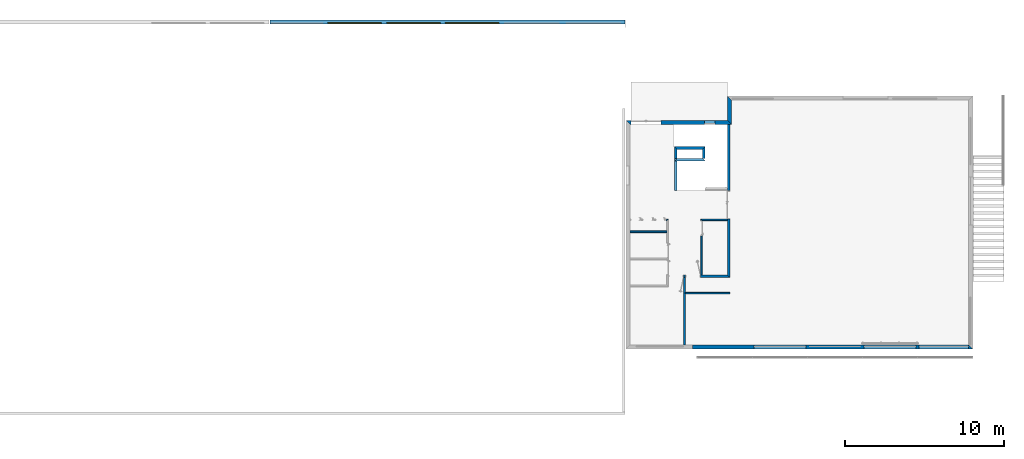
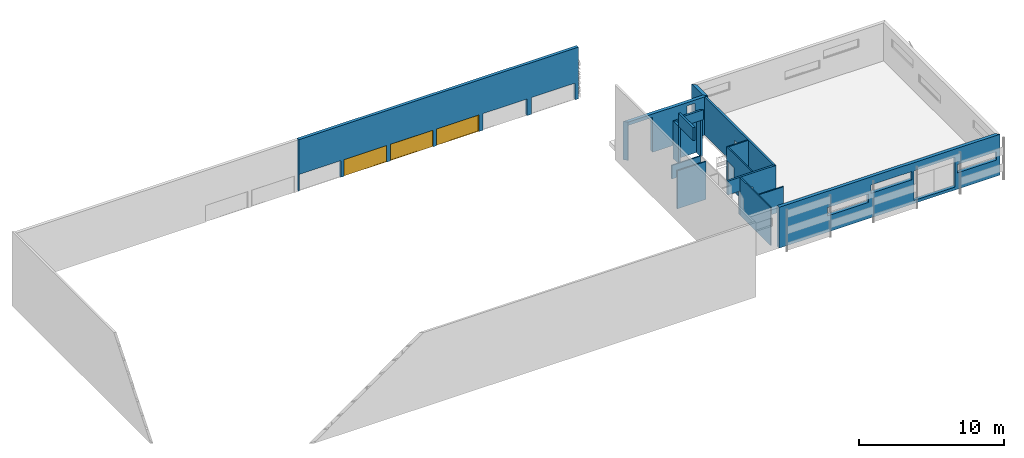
# One storey, part 5 of 14: 17 walls, 3 windows, 19 openings.
"""IFC2X3 building model written with IfcOpenShell, lengths in metres."""

from ifc_helpers import new_model, entity, si_unit, converted_unit, money_unit, direction, frame, origin_with_axes, place, context, subcontext, project, spatial, polyline, outline, extrude, open_shell, faceted_brep, surface_model, source, transform, mapped, material, layer, layer_set, layer_usage, type_object, element, fill, save


model = new_model("IFC2X3")

# Units and contexts
model_context = context("Model", 3, precision=1e-05, world=origin_with_axes(), true_north=direction((0.0, 1.0)))
body_context = subcontext(model_context, "Body", "Model", "MODEL_VIEW")
ifc_project = project(units=[si_unit("LENGTHUNIT", "METRE"), si_unit("AREAUNIT", "SQUARE_METRE"), si_unit("VOLUMEUNIT", "CUBIC_METRE"), converted_unit("PLANEANGLEUNIT", "DEGREE", entity("IfcPlaneAngleMeasure", 0.0174532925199), si_unit("PLANEANGLEUNIT", "RADIAN"), dimensions=[0, 0, 0, 0, 0, 0, 0]), si_unit("SOLIDANGLEUNIT", "STERADIAN"), money_unit("EUR"), converted_unit("TIMEUNIT", "Year", entity("IfcTimeMeasure", 31556926.0), si_unit("TIMEUNIT", "SECOND"), dimensions=[0, 0, 0, 0, 0, 0, 0]), si_unit("MASSUNIT", "GRAM"), si_unit("THERMODYNAMICTEMPERATUREUNIT", "DEGREE_CELSIUS"), si_unit("LUMINOUSINTENSITYUNIT", "LUMEN")], contexts=[model_context])

# Site, building, storey
site_placement = place(None, origin_with_axes())
site = spatial("IfcSite", under=ifc_project, at=site_placement, Name="Site", CompositionType="ELEMENT")
building_placement = place(site_placement, origin_with_axes())
building = spatial("IfcBuilding", under=site, at=building_placement, Name="Bâtiment", CompositionType="ELEMENT")
storey_placement = place(building_placement, frame((0.0, 0.0, 3.0), z_axis=(0.0, 0.0, 1.0), x_axis=(1.0, 0.0, 0.0)))
storey = spatial("IfcBuildingStorey", under=building, at=storey_placement, Name="NIVEAU HAUT ENTRÉE", CompositionType="ELEMENT", Elevation=3.0)

# Walls
ifc_material_1 = material(Name="Hachure solide* 3962059836")
ifc_layer_1 = layer(ifc_material_1, 0.1, ventilated="UNKNOWN")
ifc_layer_set_1 = layer_set([ifc_layer_1], Name="Hachure solide* 3962059836 0.1")
ifc_layer_usage_1 = layer_usage(ifc_layer_set_1, "AXIS2", "POSITIVE", -0.1)
wall_type_1 = type_object("IfcWallType", Name="Hachure solide* 3962059836 100", PredefinedType="NOTDEFINED")
wall_1_placement = place(storey_placement, frame((49.1962015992, 9.41881571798, 0.0), z_axis=(0.0, 0.0, 1.0), x_axis=(1.0, 0.0, 0.0)))
element("IfcWallStandardCase", 1, at=wall_1_placement, inside=storey, type_object=wall_type_1, material=ifc_layer_usage_1, Name="Mur-002", context=body_context, shape_type="SweptSolid", body=[
    extrude(outline(polyline([(0.0, -0.1), (2.8022563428, -0.1), (2.8022563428, 0.0), (0.0, 0.0), (0.0, -0.1)])), origin_with_axes(), (0.0, 0.0, 1.0), 2.03),
])
ifc_layer_usage_2 = layer_usage(ifc_layer_set_1, "AXIS2", "POSITIVE", 0.0)
wall_2_placement = place(storey_placement, frame((48.1362015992, 13.278815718, 0.0), z_axis=(0.0, 0.0, 1.0), x_axis=(-1.0, 0.0, 0.0)))
element("IfcWallStandardCase", 2, at=wall_2_placement, inside=storey, type_object=wall_type_1, material=ifc_layer_usage_2, Name="Mur-007", context=body_context, shape_type="SweptSolid", body=[
    extrude(outline(polyline([(0.1, 0.0), (2.3977436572, 0.0), (2.3977436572, 0.1), (0.1, 0.1), (0.1, 0.0)])), origin_with_axes(), (0.0, 0.0, 1.0), 3.2),
])

# Wall, openings
ifc_layer_usage_3 = layer_usage(ifc_layer_set_1, "AXIS2", "POSITIVE", 0.0)
wall_3_placement = place(storey_placement, frame((48.1362015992, 14.028815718, 0.0), z_axis=(0.0, 0.0, 1.0), x_axis=(-1.0, 0.0, 0.0)))
wall_3 = element("IfcWallStandardCase", 3, at=wall_3_placement, inside=storey, type_object=wall_type_1, material=ifc_layer_usage_3, Name="Mur-007", context=body_context, shape_type="SweptSolid", body=[
    extrude(outline(polyline([(0.0, 0.0), (2.3977436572, 0.0), (2.3977436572, 0.1), (0.1, 0.1), (0.0, 0.0)])), origin_with_axes(), (0.0, 0.0, 1.0), 3.2),
])
opening_1_placement = place(wall_3_placement, frame((2.02274366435, 0.0, 0.0), z_axis=(0.0, 0.0, 1.0), x_axis=(1.0, 0.0, 0.0)))
element("IfcOpeningElement", 4, at=opening_1_placement, cuts=wall_3, Name="Por-019", context=body_context, shape_type="SweptSolid", body=[
    extrude(outline(polyline([(0.375, 0.0), (-0.375, 0.0), (-0.375, -2.06), (0.375, -2.06), (0.375, 0.0)])), frame((0.0, 0.1, 0.0), z_axis=(0.0, -1.0, 0.0), x_axis=(-1.0, 0.0, 0.0)), (0.0, 0.0, 1.0), 0.2),
])
opening_2_placement = place(wall_3_placement, frame((1.24774365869, 0.0, 0.0), z_axis=(0.0, 0.0, 1.0), x_axis=(1.0, 0.0, 0.0)))
element("IfcOpeningElement", 5, at=opening_2_placement, cuts=wall_3, Name="Por-017", context=body_context, shape_type="SweptSolid", body=[
    extrude(outline(polyline([(0.4, 0.0), (-0.4, 0.0), (-0.4, -2.06), (0.4, -2.06), (0.4, 0.0)])), frame((0.0, 0.1, 0.0), z_axis=(0.0, -1.0, 0.0), x_axis=(-1.0, 0.0, 0.0)), (0.0, 0.0, 1.0), 0.2),
])
opening_3_placement = place(wall_3_placement, frame((0.487743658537, 0.0, 0.0), z_axis=(0.0, 0.0, 1.0), x_axis=(1.0, 0.0, 0.0)))
element("IfcOpeningElement", 6, at=opening_3_placement, cuts=wall_3, Name="Por-018", context=body_context, shape_type="SweptSolid", body=[
    extrude(outline(polyline([(0.36, 0.0), (-0.36, 0.0), (-0.36, -2.06), (0.36, -2.06), (0.36, 0.0)])), frame((0.0, 0.1, 0.0), z_axis=(0.0, -1.0, 0.0), x_axis=(-1.0, 0.0, 0.0)), (0.0, 0.0, 1.0), 0.2),
])

# Wall, opening
ifc_layer_usage_4 = layer_usage(ifc_layer_set_1, "AXIS2", "POSITIVE", -0.1)
wall_4_placement = place(storey_placement, frame((50.2562015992, 14.028815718, 0.0), z_axis=(0.0, 0.0, 1.0), x_axis=(0.0, -1.0, 0.0)))
wall_4 = element("IfcWallStandardCase", 7, at=wall_4_placement, inside=storey, type_object=wall_type_1, material=ifc_layer_usage_4, Name="Mur-005", context=body_context, shape_type="SweptSolid", body=[
    extrude(outline(polyline([(0.0, -0.1), (3.51, -0.1), (3.51, 0.0), (0.1, 0.0), (0.0, -0.1)])), origin_with_axes(), (0.0, 0.0, 1.0), 3.2),
])
opening_4_placement = place(wall_4_placement, frame((0.58, 0.0, -0.02), z_axis=(0.0, 0.0, 1.0), x_axis=(1.0, 0.0, 0.0)))
element("IfcOpeningElement", 8, at=opening_4_placement, cuts=wall_4, Name="Por-019", context=body_context, shape_type="SweptSolid", body=[
    extrude(outline(polyline([(0.48, 0.0), (-0.48, 0.0), (-0.48, -2.05), (0.48, -2.05), (0.48, 0.0)])), frame((0.0, -0.1, 0.0), z_axis=(0.0, 1.0, 0.0), x_axis=(1.0, 0.0, 0.0)), (0.0, 0.0, 1.0), 0.2),
])

# Walls
ifc_layer_usage_5 = layer_usage(ifc_layer_set_1, "AXIS2", "POSITIVE", -0.1)
wall_5_placement = place(storey_placement, frame((50.2562015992, 14.028815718, 0.0), z_axis=(0.0, 0.0, 1.0), x_axis=(1.0, 0.0, 0.0)))
element("IfcWallStandardCase", 9, at=wall_5_placement, inside=storey, type_object=wall_type_1, material=ifc_layer_usage_5, Name="Mur-007", context=body_context, shape_type="SweptSolid", body=[
    extrude(outline(polyline([(0.0, -0.1), (1.5822563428, -0.1), (1.5822563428, 0.0), (-0.1, 0.0), (0.0, -0.1)])), origin_with_axes(), (0.0, 0.0, 1.0), 3.2),
])
ifc_layer_usage_6 = layer_usage(ifc_layer_set_1, "AXIS2", "POSITIVE", 0.0)
wall_6_placement = place(storey_placement, frame((49.1962015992, 5.86881571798, 0.0), z_axis=(0.0, 0.0, 1.0), x_axis=(0.0, 1.0, 0.0)))
element("IfcWallStandardCase", 10, at=wall_6_placement, inside=storey, type_object=wall_type_1, material=ifc_layer_usage_6, Name="Mur-001", context=body_context, shape_type="SweptSolid", body=[
    extrude(outline(polyline([(0.26, 0.0), (4.49000000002, 0.0), (4.49000000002, 0.1), (0.26, 0.1), (0.26, 0.0)])), origin_with_axes(), (0.0, 0.0, 1.0), 3.2),
])
ifc_material_2 = material(Name="Hachure solide* 3992800808")
ifc_layer_2 = layer(ifc_material_2, 0.02, ventilated="UNKNOWN")
ifc_material_3 = material(Name="Empty Fill 290923149")
ifc_layer_3 = layer(ifc_material_3, 0.08, ventilated="UNKNOWN")
ifc_material_4 = material(Name="Hachure solide* 2593434267")
ifc_layer_4 = layer(ifc_material_4, 0.16, ventilated="UNKNOWN")
ifc_layer_set_2 = layer_set([ifc_layer_2, ifc_layer_3, ifc_layer_4], Name="•GYMN 16+10")
ifc_layer_usage_7 = layer_usage(ifc_layer_set_2, "AXIS2", "POSITIVE", -0.26)
wall_type_2 = type_object("IfcWallType", Name="•GYMN 16+10 260", PredefinedType="NOTDEFINED")
wall_7_placement = place(storey_placement, frame((51.838457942, 20.228815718, -0.15), z_axis=(0.0, 0.0, 1.0), x_axis=(0.0, 1.0, 0.0)))
element("IfcWallStandardCase", 11, at=wall_7_placement, inside=storey, type_object=wall_type_2, material=ifc_layer_usage_7, Name="Mur-003", context=body_context, shape_type="SweptSolid", body=[
    extrude(outline(polyline([(-0.26, -0.26), (1.27, -0.26), (1.53, 0.0), (0.0, 0.0), (-0.26, -0.26)])), origin_with_axes(), (0.0, 0.0, 1.0), 3.35),
])

# Wall, openings
ifc_layer_usage_8 = layer_usage(ifc_layer_set_2, "AXIS2", "POSITIVE", -0.26)
wall_8_placement = place(storey_placement, frame((45.478457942, 20.228815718, -0.03), z_axis=(0.0, 0.0, 1.0), x_axis=(1.0, 0.0, 0.0)))
wall_8 = element("IfcWallStandardCase", 12, at=wall_8_placement, inside=storey, type_object=wall_type_2, material=ifc_layer_usage_8, Name="Mur-002", context=body_context, shape_type="SweptSolid", body=[
    extrude(outline(polyline([(0.26, -0.26), (6.62, -0.26), (6.36, 0.0), (0.0, 0.0), (0.26, -0.26)])), origin_with_axes(), (0.0, 0.0, 1.0), 3.23),
])
opening_5_placement = place(wall_8_placement, frame((5.265, 0.0, 0.665078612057), z_axis=(0.0, 0.0, 1.0), x_axis=(1.0, 0.0, 0.0)))
element("IfcOpeningElement", 13, at=opening_5_placement, cuts=wall_8, Name="Fen-001", context=body_context, shape_type="SweptSolid", body=[
    extrude(outline(polyline([(0.325, -2.288652), (0.325, 0.0), (-0.325, 0.0), (-0.325, -2.288652), (0.325, -2.288652)])), frame((0.0, -0.26, 0.0), z_axis=(0.0, -1.0, 0.0), x_axis=(-1.0, 0.0, 0.0)), (0.0, 0.0, 1.0), 0.26),
    extrude(outline(polyline([(0.325, 0.0), (0.325, 2.288652), (-0.325, 2.288652), (-0.325, 0.0), (0.325, 0.0)])), frame((0.0, -0.26, 0.0), z_axis=(0.0, 1.0, 0.0), x_axis=(-1.0, 0.0, 0.0)), (0.0, 0.0, 1.0), 0.26),
])
opening_6_placement = place(wall_8_placement, frame((1.25, 0.0, 0.0), z_axis=(0.0, 0.0, 1.0), x_axis=(1.0, 0.0, 0.0)))
element("IfcOpeningElement", 14, at=opening_6_placement, cuts=wall_8, Name="Por-014", context=body_context, shape_type="SweptSolid", body=[
    extrude(outline(polyline([(-0.95, 0.0), (-0.95, -2.95373200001), (0.95, -2.95373200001), (0.95, 0.0), (-0.95, 0.0)])), frame((0.0, 0.0, 0.0), z_axis=(0.0, 1.0, 0.0), x_axis=(1.0, 0.0, 0.0)), (0.0, 0.0, 1.0), 0.26),
    extrude(outline(polyline([(-0.95, 2.95373200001), (-0.95, 0.0), (0.95, 0.0), (0.95, 2.95373200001), (-0.95, 2.95373200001)])), frame((0.0, 0.0, 0.0), z_axis=(0.0, -1.0, 0.0), x_axis=(1.0, 0.0, 0.0)), (0.0, 0.0, 1.0), 0.26),
])

ifc_layer_usage_9 = layer_usage(ifc_layer_set_2, "AXIS2", "POSITIVE", -0.26)
wall_9_placement = place(storey_placement, frame((67.258457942, 5.86881571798, -0.25), z_axis=(0.0, 0.0, 1.0), x_axis=(-1.0, 0.0, 0.0)))
wall_9 = element("IfcWallStandardCase", 15, at=wall_9_placement, inside=storey, type_object=wall_type_2, material=ifc_layer_usage_9, Name="Mur-004", context=body_context, shape_type="SweptSolid", body=[
    extrude(outline(polyline([(0.26, -0.26), (17.62, -0.26), (17.62, 0.0), (0.0, 0.0), (0.26, -0.26)])), origin_with_axes(), (0.0, 0.0, 1.0), 3.45),
])
opening_7_placement = place(wall_9_placement, frame((8.6645, 0.0, 2.0608240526), z_axis=(0.0, 0.0, 1.0), x_axis=(1.0, 0.0, 0.0)))
element("IfcOpeningElement", 16, at=opening_7_placement, cuts=wall_9, Name="Fen-026", context=body_context, shape_type="SweptSolid", body=[
    extrude(outline(polyline([(1.6345, 0.7), (-1.6345, 0.7), (-1.6345, 0.0), (1.6345, 0.0), (1.6345, 0.7)])), frame((0.0, -0.18, 0.0), z_axis=(0.0, 1.0, 0.0), x_axis=(-1.0, 0.0, 0.0)), (0.0, 0.0, 1.0), 0.44),
    extrude(outline(polyline([(1.6345, 0.0), (-1.6345, 0.0), (-1.6345, -0.7), (1.6345, -0.7), (1.6345, 0.0)])), frame((0.0, -0.18, 0.0), z_axis=(0.0, -1.0, 0.0), x_axis=(-1.0, 0.0, 0.0)), (0.0, 0.0, 1.0), 0.34),
])
opening_8_placement = place(wall_9_placement, frame((12.1210306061, 0.0, 1.37), z_axis=(0.0, 0.0, 1.0), x_axis=(1.0, 0.0, 0.0)))
element("IfcOpeningElement", 17, at=opening_8_placement, cuts=wall_9, Name="Fen-026", context=body_context, shape_type="SweptSolid", body=[
    extrude(outline(polyline([(1.635969, 0.7), (-1.635969, 0.7), (-1.635969, 0.0), (1.635969, 0.0), (1.635969, 0.7)])), frame((0.0, -0.18, 0.0), z_axis=(0.0, 1.0, 0.0), x_axis=(-1.0, 0.0, 0.0)), (0.0, 0.0, 1.0), 0.44),
    extrude(outline(polyline([(1.635969, 0.0), (-1.635969, 0.0), (-1.635969, -0.7), (1.635969, -0.7), (1.635969, 0.0)])), frame((0.0, -0.18, 0.0), z_axis=(0.0, -1.0, 0.0), x_axis=(-1.0, 0.0, 0.0)), (0.0, 0.0, 1.0), 0.34),
])
opening_9_placement = place(wall_9_placement, frame((1.8165, 0.0, 1.37), z_axis=(0.0, 0.0, 1.0), x_axis=(1.0, 0.0, 0.0)))
element("IfcOpeningElement", 18, at=opening_9_placement, cuts=wall_9, Name="Fen-026", context=body_context, shape_type="SweptSolid", body=[
    extrude(outline(polyline([(-1.5565, 0.7), (-1.5565, 0.0), (1.5565, 0.0), (1.5565, 0.7), (-1.5565, 0.7)])), frame((0.0, -0.18, 0.0), z_axis=(0.0, 1.0, 0.0), x_axis=(-1.0, 0.0, 0.0)), (0.0, 0.0, 1.0), 0.44),
    extrude(outline(polyline([(-1.5565, 0.0), (-1.5565, -0.7), (1.5565, -0.7), (1.5565, 0.0), (-1.5565, 0.0)])), frame((0.0, -0.18, 0.0), z_axis=(0.0, -1.0, 0.0), x_axis=(-1.0, 0.0, 0.0)), (0.0, 0.0, 1.0), 0.34),
])
opening_10_placement = place(wall_9_placement, frame((5.20601755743, 0.0, 0.25), z_axis=(0.0, 0.0, 1.0), x_axis=(1.0, 0.0, 0.0)))
element("IfcOpeningElement", 19, at=opening_10_placement, cuts=wall_9, Name="Fen-026", context=body_context, shape_type="SweptSolid", body=[
    extrude(outline(polyline([(1.64, 2.510824), (-1.64, 2.510824), (-1.64, 0.0), (1.64, 0.0), (1.64, 2.510824)])), frame((0.0, -0.18, 0.0), z_axis=(0.0, 1.0, 0.0), x_axis=(-1.0, 0.0, 0.0)), (0.0, 0.0, 1.0), 0.44),
    extrude(outline(polyline([(1.64, 0.0), (-1.64, 0.0), (-1.64, -2.510824), (1.64, -2.510824), (1.64, 0.0)])), frame((0.0, -0.18, 0.0), z_axis=(0.0, -1.0, 0.0), x_axis=(-1.0, 0.0, 0.0)), (0.0, 0.0, 1.0), 0.34),
])

# Walls
ifc_layer_5 = layer(ifc_material_1, 0.16, ventilated="UNKNOWN")
ifc_layer_set_3 = layer_set([ifc_layer_5], Name="Hachure solide* 3962059836 0.16")
ifc_layer_usage_10 = layer_usage(ifc_layer_set_3, "AXIS2", "POSITIVE", -0.16)
wall_type_3 = type_object("IfcWallType", Name="Hachure solide* 3962059836 160", PredefinedType="NOTDEFINED")
wall_10_placement = place(storey_placement, frame((48.518457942, 15.808815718, 3.18), z_axis=(0.0, 0.0, 1.0), x_axis=(0.0, 1.0, 0.0)))
element("IfcWallStandardCase", 20, at=wall_10_placement, inside=storey, type_object=wall_type_3, material=ifc_layer_usage_10, Name="Mur-008", context=body_context, shape_type="SweptSolid", body=[
    extrude(outline(polyline([(0.0, -0.16), (2.02, -0.16), (2.02, 0.0), (0.0, 0.0), (0.0, -0.16)])), origin_with_axes(), (0.0, 0.0, 1.0), 1.1),
])
ifc_layer_usage_11 = layer_usage(ifc_layer_set_3, "AXIS2", "POSITIVE", -0.16)
wall_11_placement = place(storey_placement, frame((48.518457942, 17.828815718, 3.18), z_axis=(0.0, 0.0, 1.0), x_axis=(1.0, 0.0, 0.0)))
element("IfcWallStandardCase", 21, at=wall_11_placement, inside=storey, type_object=wall_type_3, material=ifc_layer_usage_11, Name="Mur-005", context=body_context, shape_type="SweptSolid", body=[
    extrude(outline(polyline([(0.0, -0.16), (1.92, -0.16), (1.76, 0.0), (0.16, 0.0), (0.0, -0.16)])), origin_with_axes(), (0.0, 0.0, 1.0), 0.82),
])
ifc_layer_usage_12 = layer_usage(ifc_layer_set_3, "AXIS2", "POSITIVE", -0.16)
wall_12_placement = place(storey_placement, frame((48.518457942, 18.568815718, 0.0), z_axis=(0.0, 0.0, 1.0), x_axis=(1.0, 0.0, 0.0)))
element("IfcWallStandardCase", 22, at=wall_12_placement, inside=storey, type_object=wall_type_3, material=ifc_layer_usage_12, Name="Mur-005", context=body_context, shape_type="SweptSolid", body=[
    extrude(outline(polyline([(0.16, -0.16), (1.76, -0.16), (1.92, 0.0), (0.0, 0.0), (0.16, -0.16)])), origin_with_axes(), (0.0, 0.0, 1.0), 3.2),
])
ifc_layer_usage_13 = layer_usage(ifc_layer_set_3, "AXIS2", "POSITIVE", -0.16)
wall_13_placement = place(storey_placement, frame((48.518457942, 17.828815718, 0.0), z_axis=(0.0, 0.0, 1.0), x_axis=(0.0, 1.0, 0.0)))
element("IfcWallStandardCase", 23, at=wall_13_placement, inside=storey, type_object=wall_type_3, material=ifc_layer_usage_13, Name="Mur-004", context=body_context, shape_type="SweptSolid", body=[
    extrude(outline(polyline([(0.0, -0.16), (0.58, -0.16), (0.74, 0.0), (0.0, 0.0), (0.0, -0.16)])), origin_with_axes(), (0.0, 0.0, 1.0), 3.2),
])

# Wall, openings
ifc_layer_usage_14 = layer_usage(ifc_layer_set_3, "AXIS2", "POSITIVE", -0.16)
wall_14_placement = place(storey_placement, frame((48.1362015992, 10.518815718, 0.0), z_axis=(0.0, 0.0, 1.0), x_axis=(1.0, 0.0, 0.0)))
wall_14 = element("IfcWallStandardCase", 24, at=wall_14_placement, inside=storey, type_object=wall_type_3, material=ifc_layer_usage_14, Name="Mur-002", context=body_context, shape_type="SweptSolid", body=[
    extrude(outline(polyline([(0.0, -0.16), (3.8622563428, -0.16), (3.7022563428, 0.0), (0.0, 0.0), (0.0, -0.16)])), origin_with_axes(), (0.0, 0.0, 1.0), 3.2),
])
opening_11_placement = place(wall_14_placement, frame((0.48, 0.0, -0.02), z_axis=(0.0, 0.0, 1.0), x_axis=(1.0, 0.0, 0.0)))
element("IfcOpeningElement", 25, at=opening_11_placement, cuts=wall_14, Name="Por-018", context=body_context, shape_type="SweptSolid", body=[
    extrude(outline(polyline([(0.48, 0.0), (-0.48, 0.0), (-0.48, -2.05), (0.48, -2.05), (0.48, 0.0)])), frame((0.0, 0.16, 0.0), z_axis=(0.0, -1.0, 0.0), x_axis=(-1.0, 0.0, 0.0)), (0.0, 0.0, 1.0), 0.32),
])
opening_12_placement = place(wall_14_placement, frame((1.54, 0.0, -0.02), z_axis=(0.0, 0.0, 1.0), x_axis=(1.0, 0.0, 0.0)))
element("IfcOpeningElement", 26, at=opening_12_placement, cuts=wall_14, Name="Por-019", context=body_context, shape_type="SweptSolid", body=[
    extrude(outline(polyline([(-0.48, 0.0), (-0.48, -2.05), (0.48, -2.05), (0.48, 0.0), (-0.48, 0.0)])), frame((0.0, -0.16, 0.0), z_axis=(0.0, 1.0, 0.0), x_axis=(1.0, 0.0, 0.0)), (0.0, 0.0, 1.0), 0.32),
])

# Wall, opening
ifc_layer_usage_15 = layer_usage(ifc_layer_set_3, "AXIS2", "POSITIVE", 0.0)
wall_15_placement = place(storey_placement, frame((51.838457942, 20.228815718, 0.0), z_axis=(0.0, 0.0, 1.0), x_axis=(0.0, -1.0, 0.0)))
wall_15 = element("IfcWallStandardCase", 27, at=wall_15_placement, inside=storey, type_object=wall_type_3, material=ifc_layer_usage_15, Name="Mur-004", context=body_context, shape_type="SweptSolid", body=[
    extrude(outline(polyline([(0.26, 0.0), (9.71, 0.0), (9.87, 0.16), (0.26, 0.16), (0.26, 0.0)])), origin_with_axes(), (0.0, 0.0, 1.0), 3.2),
])
opening_13_placement = place(wall_15_placement, frame((5.31000000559, 0.0, 0.0), z_axis=(0.0, 0.0, 1.0), x_axis=(1.0, 0.0, 0.0)))
element("IfcOpeningElement", 28, at=opening_13_placement, cuts=wall_15, Name="Por-017", context=body_context, shape_type="SweptSolid", body=[
    extrude(outline(polyline([(0.89, 0.0), (-0.89, 0.0), (-0.89, -2.045), (0.89, -2.045), (0.89, 0.0)])), frame((0.0, 0.16, 0.0), z_axis=(0.0, -1.0, 0.0), x_axis=(-1.0, 0.0, 0.0)), (0.0, 0.0, 1.0), 0.32),
])

# Wall
ifc_layer_usage_16 = layer_usage(ifc_layer_set_3, "AXIS2", "POSITIVE", -0.16)
wall_16_placement = place(storey_placement, frame((50.438457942, 18.568815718, 0.0), z_axis=(0.0, 0.0, 1.0), x_axis=(0.0, -1.0, 0.0)))
element("IfcWallStandardCase", 29, at=wall_16_placement, inside=storey, type_object=wall_type_3, material=ifc_layer_usage_16, Name="Mur-006", context=body_context, shape_type="SweptSolid", body=[
    extrude(outline(polyline([(0.16, -0.16), (0.74, -0.16), (0.74, 0.0), (0.0, 0.0), (0.16, -0.16)])), origin_with_axes(), (0.0, 0.0, 1.0), 3.2),
])

# Wall, openings, windows
ifc_material_5 = material(Name="Hachure solide* 1842511997")
ifc_layer_6 = layer(ifc_material_5, 0.1, ventilated="UNKNOWN")
ifc_material_6 = material(Name="Isolation 347608549")
ifc_layer_7 = layer(ifc_material_6, 0.12, ventilated="UNKNOWN")
ifc_material_7 = material(Name="Hachure solide* 398427698")
ifc_layer_8 = layer(ifc_material_7, 0.02, ventilated="UNKNOWN")
ifc_layer_set_4 = layer_set([ifc_layer_6, ifc_layer_7, ifc_layer_8], Name="•GYMN PANNEAU 1 0232896968")
ifc_layer_usage_17 = layer_usage(ifc_layer_set_4, "AXIS2", "POSITIVE", -0.24)
wall_type_4 = type_object("IfcWallType", Name="•GYMN PANNEAU 1 0232896968 240", PredefinedType="NOTDEFINED")
wall_17_placement = place(storey_placement, frame((23.108457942, 26.5291158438, 1.46), z_axis=(0.0, 0.0, 1.0), x_axis=(1.0, 0.0, 0.0)))
wall_17 = element("IfcWallStandardCase", 30, at=wall_17_placement, inside=storey, type_object=wall_type_4, material=ifc_layer_usage_17, Name="Mur-003", context=body_context, shape_type="SweptSolid", body=[
    extrude(outline(polyline([(0.0, -0.24), (22.31, -0.24), (22.31, 0.0), (0.0, 0.0), (0.0, -0.24)])), origin_with_axes(), (0.0, 0.0, 1.0), 4.35),
])
opening_14_placement = place(wall_17_placement, frame((16.4434939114, 0.0, 0.0), z_axis=(0.0, 0.0, 1.0), x_axis=(1.0, 0.0, 0.0)))
element("IfcOpeningElement", 31, at=opening_14_placement, cuts=wall_17, Name="Fen-028", context=body_context, shape_type="SweptSolid", body=[
    extrude(outline(polyline([(1.75, 0.0), (-1.75, 0.0), (-1.75, -1.405702), (1.75, -1.405702), (1.75, 0.0)])), frame((0.0, -0.16, 0.0), z_axis=(0.0, 1.0, 0.0), x_axis=(1.0, 0.0, 0.0)), (0.0, 0.0, 1.0), 0.4),
    extrude(outline(polyline([(1.75, 1.405702), (-1.75, 1.405702), (-1.75, 0.0), (1.75, 0.0), (1.75, 1.405702)])), frame((0.0, -0.16, 0.0), z_axis=(0.0, -1.0, 0.0), x_axis=(1.0, 0.0, 0.0)), (0.0, 0.0, 1.0), 0.32),
])
opening_15_placement = place(wall_17_placement, frame((12.6934939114, 0.0, 0.0), z_axis=(0.0, 0.0, 1.0), x_axis=(1.0, 0.0, 0.0)))
opening_15 = element("IfcOpeningElement", 32, at=opening_15_placement, cuts=wall_17, Name="Fen-028", context=body_context, shape_type="SweptSolid", body=[
    extrude(outline(polyline([(1.7, 0.0), (-1.7, 0.0), (-1.7, -1.405702), (1.7, -1.405702), (1.7, 0.0)])), frame((0.0, -0.16, 0.0), z_axis=(0.0, 1.0, 0.0), x_axis=(1.0, 0.0, 0.0)), (0.0, 0.0, 1.0), 0.4),
    extrude(outline(polyline([(1.7, 1.405702), (-1.7, 1.405702), (-1.7, 0.0), (1.7, 0.0), (1.7, 1.405702)])), frame((0.0, -0.16, 0.0), z_axis=(0.0, -1.0, 0.0), x_axis=(1.0, 0.0, 0.0)), (0.0, 0.0, 1.0), 0.32),
])
opening_16_placement = place(wall_17_placement, frame((9.01682724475, 0.0, 0.0), z_axis=(0.0, 0.0, 1.0), x_axis=(1.0, 0.0, 0.0)))
opening_16 = element("IfcOpeningElement", 33, at=opening_16_placement, cuts=wall_17, Name="Fen-028", context=body_context, shape_type="SweptSolid", body=[
    extrude(outline(polyline([(1.7, 0.0), (-1.7, 0.0), (-1.7, -1.405702), (1.7, -1.405702), (1.7, 0.0)])), frame((0.0, -0.16, 0.0), z_axis=(0.0, 1.0, 0.0), x_axis=(1.0, 0.0, 0.0)), (0.0, 0.0, 1.0), 0.4),
    extrude(outline(polyline([(1.7, 1.405702), (-1.7, 1.405702), (-1.7, 0.0), (1.7, 0.0), (1.7, 1.405702)])), frame((0.0, -0.16, 0.0), z_axis=(0.0, -1.0, 0.0), x_axis=(1.0, 0.0, 0.0)), (0.0, 0.0, 1.0), 0.32),
])
opening_17_placement = place(wall_17_placement, frame((5.31682724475, 0.0, 0.0), z_axis=(0.0, 0.0, 1.0), x_axis=(1.0, 0.0, 0.0)))
opening_17 = element("IfcOpeningElement", 34, at=opening_17_placement, cuts=wall_17, Name="Fen-028", context=body_context, shape_type="SweptSolid", body=[
    extrude(outline(polyline([(1.7, 0.0), (-1.7, 0.0), (-1.7, -1.405702), (1.7, -1.405702), (1.7, 0.0)])), frame((0.0, -0.16, 0.0), z_axis=(0.0, 1.0, 0.0), x_axis=(1.0, 0.0, 0.0)), (0.0, 0.0, 1.0), 0.4),
    extrude(outline(polyline([(1.7, 1.405702), (-1.7, 1.405702), (-1.7, 0.0), (1.7, 0.0), (1.7, 1.405702)])), frame((0.0, -0.16, 0.0), z_axis=(0.0, -1.0, 0.0), x_axis=(1.0, 0.0, 0.0)), (0.0, 0.0, 1.0), 0.32),
])
opening_18_placement = place(wall_17_placement, frame((1.7, 0.0, 0.0), z_axis=(0.0, 0.0, 1.0), x_axis=(1.0, 0.0, 0.0)))
element("IfcOpeningElement", 35, at=opening_18_placement, cuts=wall_17, Name="Fen-028", context=body_context, shape_type="SweptSolid", body=[
    extrude(outline(polyline([(1.65, 0.0), (-1.65, 0.0), (-1.65, -1.405702), (1.65, -1.405702), (1.65, 0.0)])), frame((0.0, -0.16, 0.0), z_axis=(0.0, 1.0, 0.0), x_axis=(1.0, 0.0, 0.0)), (0.0, 0.0, 1.0), 0.4),
    extrude(outline(polyline([(1.65, 1.405702), (-1.65, 1.405702), (-1.65, 0.0), (1.65, 0.0), (1.65, 1.405702)])), frame((0.0, -0.16, 0.0), z_axis=(0.0, -1.0, 0.0), x_axis=(1.0, 0.0, 0.0)), (0.0, 0.0, 1.0), 0.32),
])
opening_19_placement = place(wall_17_placement, frame((20.3078718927, 0.0, 0.0), z_axis=(0.0, 0.0, 1.0), x_axis=(1.0, 0.0, 0.0)))
element("IfcOpeningElement", 36, at=opening_19_placement, cuts=wall_17, Name="Fen-028", context=body_context, shape_type="SweptSolid", body=[
    extrude(outline(polyline([(-1.737872, 0.0), (-1.737872, -1.405702), (1.737872, -1.405702), (1.737872, 0.0), (-1.737872, 0.0)])), frame((0.0, -0.16, 0.0), z_axis=(0.0, 1.0, 0.0), x_axis=(1.0, 0.0, 0.0)), (0.0, 0.0, 1.0), 0.4),
    extrude(outline(polyline([(-1.737872, 1.405702), (-1.737872, 0.0), (1.737872, 0.0), (1.737872, 1.405702), (-1.737872, 1.405702)])), frame((0.0, -0.16, 0.0), z_axis=(0.0, -1.0, 0.0), x_axis=(1.0, 0.0, 0.0)), (0.0, 0.0, 1.0), 0.32),
])
ifc_material_8 = material(Name="Sans Trame")
window_style = type_object("IfcWindowStyle", Name="Fen bascule 1 10", ConstructionType="NOTDEFINED", OperationType="SINGLE_PANEL", ParameterTakesPrecedence=False, Sizeable=False)
shared_shape = source(origin_with_axes(), body_context, "Body", "SurfaceModel", [
    faceted_brep([(1.68, -0.2, 1.365702), (1.7, -0.2, 1.365702), (1.7, -0.16, 1.365702), (1.66, -0.16, 1.365702), (1.66, -0.18, 1.365702), (1.68, -0.18, 1.365702), (1.68, -0.2, 0.039999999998), (1.7, -0.2, 0.039999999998), (1.7, -0.16, 0.039999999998), (1.66, -0.16, 0.039999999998), (1.66, -0.18, 0.039999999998), (1.68, -0.18, 0.039999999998)], [[[0, 1, 2, 3, 4, 5]], [[6, 7, 1, 0]], [[1, 7, 8, 2]], [[2, 8, 9, 3]], [[4, 3, 9, 10]], [[10, 11, 5, 4]], [[5, 11, 6, 0]], [[11, 10, 9, 8, 7, 6]]]),
    faceted_brep([(-1.66, -0.18, 1.365702), (-1.66, -0.16, 1.365702), (-1.7, -0.16, 1.365702), (-1.7, -0.2, 1.365702), (-1.68, -0.2, 1.365702), (-1.68, -0.18, 1.365702), (-1.66, -0.18, 0.039999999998), (-1.66, -0.16, 0.039999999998), (-1.7, -0.16, 0.039999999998), (-1.7, -0.2, 0.039999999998), (-1.68, -0.2, 0.039999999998), (-1.68, -0.18, 0.039999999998)], [[[0, 1, 2, 3, 4, 5]], [[6, 7, 1, 0]], [[8, 2, 1, 7]], [[9, 3, 2, 8]], [[4, 3, 9, 10]], [[10, 11, 5, 4]], [[5, 11, 6, 0]], [[11, 10, 9, 8, 7, 6]]]),
    faceted_brep([(1.68, -0.2, 1.365702), (1.7, -0.2, 1.365702), (1.7, -0.2, 1.405702), (-1.7, -0.2, 1.405702), (-1.7, -0.2, 1.365702), (-1.68, -0.2, 1.365702), (-1.68, -0.2, 1.385702), (1.68, -0.2, 1.385702), (1.68, -0.18, 1.365702), (1.66, -0.18, 1.365702), (1.66, -0.16, 1.365702), (1.7, -0.16, 1.365702), (1.7, -0.16, 1.405702), (-1.7, -0.16, 1.405702), (-1.7, -0.16, 1.365702), (-1.68, -0.18, 1.365702), (-1.66, -0.16, 1.365702), (-1.66, -0.18, 1.365702), (-1.68, -0.18, 1.385702), (1.68, -0.18, 1.385702)], [[[0, 1, 2, 3, 4, 5, 6, 7]], [[8, 9, 10, 11, 1, 0]], [[2, 1, 11, 12]], [[3, 2, 12, 13]], [[4, 3, 13, 14]], [[15, 5, 4, 14, 16, 17]], [[5, 15, 18, 6]], [[6, 18, 19, 7]], [[7, 19, 8, 0]], [[17, 9, 8, 19, 18, 15]], [[17, 16, 10, 9]], [[14, 13, 12, 11, 10, 16]]]),
    faceted_brep([(-1.66, -0.18, 0.039999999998), (-1.66, -0.16, 0.039999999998), (-1.7, -0.16, 0.039999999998), (-1.7, -0.2, 0.039999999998), (-1.68, -0.2, 0.039999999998), (-1.68, -0.18, 0.039999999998), (1.66, -0.18, 0.039999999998), (1.66, -0.16, 0.039999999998), (1.7, -0.16, 0.039999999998), (1.7, -0.16, 0.0), (-1.7, -0.16, 0.0), (-1.7, -0.2, 0.0), (1.68, -0.2, 0.019999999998), (-1.68, -0.2, 0.019999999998), (1.7, -0.2, 0.0), (1.7, -0.2, 0.039999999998), (1.68, -0.2, 0.039999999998), (-1.68, -0.18, 0.019999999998), (1.68, -0.18, 0.019999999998), (1.68, -0.18, 0.039999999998)], [[[0, 1, 2, 3, 4, 5]], [[6, 7, 1, 0]], [[8, 9, 10, 2, 1, 7]], [[11, 3, 2, 10]], [[12, 13, 4, 3, 11, 14, 15, 16]], [[13, 17, 5, 4]], [[5, 17, 18, 19, 6, 0]], [[19, 16, 15, 8, 7, 6]], [[15, 14, 9, 8]], [[14, 11, 10, 9]], [[12, 18, 17, 13]], [[19, 18, 12, 16]]]),
    faceted_brep([(-1.64, -0.18, 0.059999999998), (-1.64, -0.18, 1.345702), (-1.64, -0.22, 1.345702), (-1.64, -0.22, 0.059999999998), (-1.68, -0.18, 0.059999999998), (-1.68, -0.18, 1.345702), (-1.68, -0.22, 1.345702), (-1.68, -0.22, 0.059999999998)], [[[0, 1, 2, 3]], [[0, 4, 5, 1]], [[1, 5, 6, 2]], [[3, 2, 6, 7]], [[4, 0, 3, 7]], [[5, 4, 7, 6]]]),
    faceted_brep([(1.68, -0.18, 0.059999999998), (1.68, -0.18, 1.345702), (1.68, -0.22, 1.345702), (1.68, -0.22, 0.059999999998), (1.64, -0.18, 0.059999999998), (1.64, -0.18, 1.345702), (1.64, -0.22, 1.345702), (1.64, -0.22, 0.059999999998)], [[[0, 1, 2, 3]], [[0, 4, 5, 1]], [[1, 5, 6, 2]], [[3, 2, 6, 7]], [[4, 0, 3, 7]], [[5, 4, 7, 6]]]),
    faceted_brep([(1.68, -0.18, 0.019999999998), (1.68, -0.18, 0.059999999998), (1.68, -0.22, 0.059999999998), (1.68, -0.22, 0.019999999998), (-1.68, -0.18, 0.019999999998), (-1.68, -0.18, 0.059999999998), (-1.64, -0.18, 0.059999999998), (1.64, -0.18, 0.059999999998), (1.64, -0.22, 0.059999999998), (-1.64, -0.22, 0.059999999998), (-1.68, -0.22, 0.059999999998), (-1.68, -0.22, 0.019999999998)], [[[0, 1, 2, 3]], [[0, 4, 5, 6, 7, 1]], [[1, 7, 8, 2]], [[3, 2, 8, 9, 10, 11]], [[4, 0, 3, 11]], [[5, 4, 11, 10]], [[6, 5, 10, 9]], [[7, 6, 9, 8]]]),
    faceted_brep([(-1.68, -0.18, 1.385702), (-1.68, -0.18, 1.345702), (-1.68, -0.22, 1.345702), (-1.68, -0.22, 1.385702), (1.68, -0.18, 1.385702), (1.68, -0.18, 1.345702), (1.64, -0.18, 1.345702), (-1.64, -0.18, 1.345702), (-1.64, -0.22, 1.345702), (1.64, -0.22, 1.345702), (1.68, -0.22, 1.345702), (1.68, -0.22, 1.385702)], [[[0, 1, 2, 3]], [[0, 4, 5, 6, 7, 1]], [[1, 7, 8, 2]], [[3, 2, 8, 9, 10, 11]], [[4, 0, 3, 11]], [[5, 4, 11, 10]], [[6, 5, 10, 9]], [[7, 6, 9, 8]]]),
    surface_model("IfcShellBasedSurfaceModel", [(-1.64, -0.19, 0.059999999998), (-1.64, -0.19, 1.345702), (1.64, -0.19, 1.345702), (1.64, -0.19, 0.059999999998)], [open_shell([[[0, 1, 2, 3]]])]),
    surface_model("IfcShellBasedSurfaceModel", [(-1.64, -0.21, 0.059999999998), (1.64, -0.21, 0.059999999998), (1.64, -0.21, 1.345702), (-1.64, -0.21, 1.345702)], [open_shell([[[0, 1, 2, 3]]])]),
])
window_1_placement = place(opening_15_placement, frame((-1.7, 0.0, 0.0), z_axis=(0.0, 0.0, 1.0), x_axis=(1.0, 0.0, 0.0)))
window_1 = element("IfcWindow", 37, at=window_1_placement, inside=storey, type_object=window_style, material=ifc_material_8, Name="Fen-028", OverallHeight=1.4057, OverallWidth=3.4, context=body_context, shape_type="MappedRepresentation", body=[
    mapped(shared_shape, transform((1.7, 0.0, 0.0))),
])
fill(opening_15, window_1)
window_2_placement = place(opening_16_placement, frame((-1.7, 0.0, 0.0), z_axis=(0.0, 0.0, 1.0), x_axis=(1.0, 0.0, 0.0)))
window_2 = element("IfcWindow", 38, at=window_2_placement, inside=storey, type_object=window_style, material=ifc_material_8, Name="Fen-028", OverallHeight=1.4057, OverallWidth=3.4, context=body_context, shape_type="MappedRepresentation", body=[
    mapped(shared_shape, transform((1.7, 0.0, 0.0))),
])
fill(opening_16, window_2)
window_3_placement = place(opening_17_placement, frame((-1.7, 0.0, 0.0), z_axis=(0.0, 0.0, 1.0), x_axis=(1.0, 0.0, 0.0)))
window_3 = element("IfcWindow", 39, at=window_3_placement, inside=storey, type_object=window_style, material=ifc_material_8, Name="Fen-028", OverallHeight=1.4057, OverallWidth=3.4, context=body_context, shape_type="MappedRepresentation", body=[
    mapped(shared_shape, transform((1.7, 0.0, 0.0))),
])
fill(opening_17, window_3)

save(model, "model.ifc")
